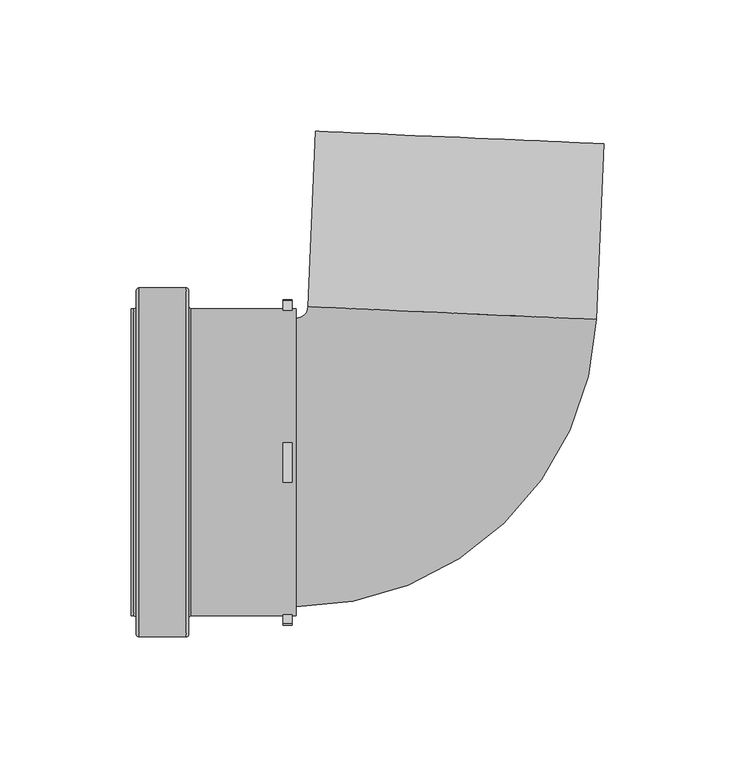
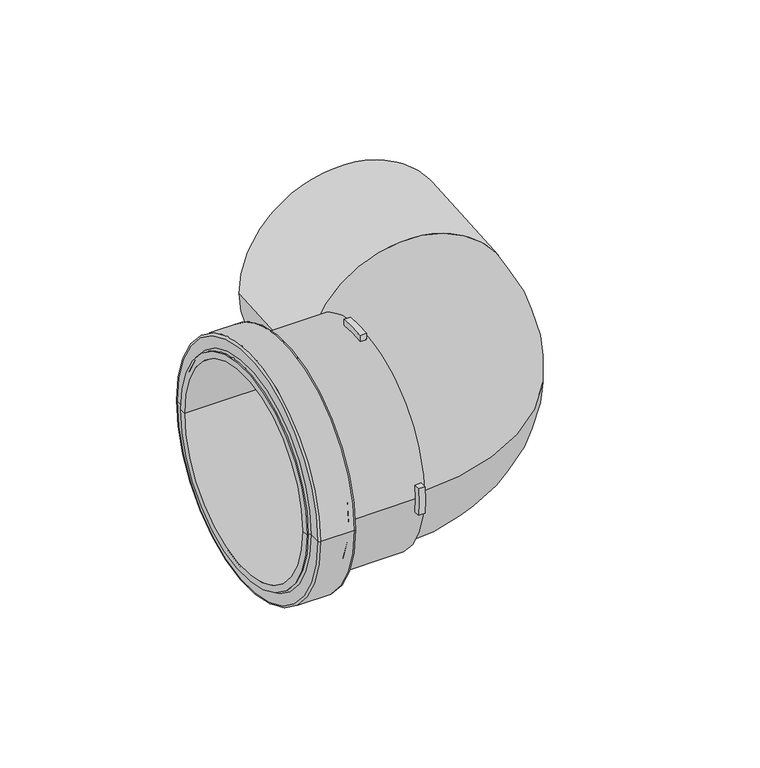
"""IFC4 building model written with IfcOpenShell, lengths in millimetres: pipe fitting geometry, MarleyPlumbingAndDrainage_PipeFitting_dBlue90DegreeBend_VKL : VKL-110-000-90D - 110mm - Blue."""

from ifc_helpers import new_model, si_unit, point, frame, origin, place, context, project, spatial, polyline, circle_curve, ellipse_curve, trimmed, source, transform, mapped, element, save
from ifc_brep_helpers import plane_surface, cylinder_surface, revolved_surface, advanced_brep


def pipe_fitting_0bd95a64(model_context):
    return source(origin(), model_context, "Body", "AdvancedBrep", [
        advanced_brep(
        [(-113.7256467, 66.5, 0.0), (-113.7256467, -66.5, 0.0), (-112.7256467, -65.5, 0.0), (-112.7256467, 65.5, 0.0), (-131.7256467, 66.5, 0.0), (-131.7256467, -66.5, 0.0), (-132.7256467, 65.5, 0.0), (-132.7256467, -65.5, 0.0), (-132.7256467, 59.5, 0.0), (-132.7256467, -59.5, 0.0), (-133.7256467, 58.5, 0.0), (-133.7256467, -58.5, 0.0), (-134.7256467, 55.0, 0.0), (-134.7256467, -55.0, 0.0), (-134.7256467, -58.5, 0.0), (-134.7256467, 58.5, 0.0), (-71.7256467, 55.0, 0.0), (-71.7256467, -55.0, 0.0), (-71.7256467, 58.5, 0.0), (-71.7256467, -58.5, 0.0), (-73.2256467, 58.5, 0.0), (-73.2256467, 58.0172388, 7.5), (-76.7256467, 58.0172388, 7.5), (-76.7256467, 58.5, 0.0), (-111.7256467, 58.5, 0.0), (-111.7256467, -58.5, 0.0), (-76.7256467, -58.5, 0.0), (-76.7256467, -58.0172388, 7.5), (-73.2256467, -58.0172388, 7.5), (-73.2256467, -58.5, 0.0), (-76.7256467, -7.5, 58.0172388), (-76.7256467, 7.5, 58.0172388), (-73.2256467, 7.5, 58.0172388), (-73.2256467, -7.5, 58.0172388), (-73.2256467, -58.0172388, -7.5), (-76.7256467, -58.0172388, -7.5), (-76.7256467, 58.0172388, -7.5), (-73.2256467, 58.0172388, -7.5), (-76.7256467, 7.5, -58.0172388), (-76.7256467, -7.5, -58.0172388), (-73.2256467, -7.5, -58.0172388), (-73.2256467, 7.5, -58.0172388), (-112.7256467, 59.5, 0.0), (-112.7256467, -59.5, 0.0), (-76.7256467, 61.5446992, 7.5), (-76.7256467, 61.5446992, -7.5), (-76.7256467, -7.5, 61.5446992), (-76.7256467, 7.5, 61.5446992), (-76.7256467, -61.5446992, -7.5), (-76.7256467, -61.5446992, 7.5), (-76.7256467, 7.5, -61.5446992), (-76.7256467, -7.5, -61.5446992), (-73.2256467, 61.5446992, -7.5), (-73.2256467, 61.5446992, 7.5), (-73.2256467, 7.5, 61.5446992), (-73.2256467, -7.5, 61.5446992), (-73.2256467, -61.5446992, 7.5), (-73.2256467, -61.5446992, -7.5), (-73.2256467, -7.5, -61.5446992), (-73.2256467, 7.5, -61.5446992)],
        [
            (0, 1, circle_curve(frame((-113.7256467, 0.0, 0.0), z_axis=(1.0, 0.0, 0.0), x_axis=(0.0, -1.0, 0.0)), 66.5)),
            (1, 2, circle_curve(frame((-113.7256467, -65.5, 0.0), z_axis=(0.0, 0.0, 1.0), x_axis=(0.0, -1.0, 0.0)), 1.0)),
            (2, 3, circle_curve(frame((-112.7256467, 0.0, 0.0), z_axis=(-1.0, 0.0, 0.0), x_axis=(0.0, -1.0, 0.0)), 65.5)),
            (3, 0, circle_curve(frame((-113.7256467, 65.5, 0.0), z_axis=(0.0, 0.0, 1.0), x_axis=(0.0, 1.0, 0.0)), 1.0)),
            (1, 0, circle_curve(frame((-113.7256467, 0.0, 0.0), z_axis=(1.0, 0.0, 0.0), x_axis=(0.0, -1.0, 0.0)), 66.5)),
            (3, 2, circle_curve(frame((-112.7256467, 0.0, 0.0), z_axis=(-1.0, 0.0, 0.0), x_axis=(0.0, -1.0, 0.0)), 65.5)),
            (0, 4),
            (4, 5, circle_curve(frame((-131.7256467, 0.0, 0.0), z_axis=(1.0, 0.0, 0.0), x_axis=(0.0, -1.0, 0.0)), 66.5)),
            (5, 1),
            (5, 4, circle_curve(frame((-131.7256467, 0.0, 0.0), z_axis=(1.0, 0.0, 0.0), x_axis=(0.0, -1.0, 0.0)), 66.5)),
            (4, 6, circle_curve(frame((-131.7256467, 65.5, 0.0), z_axis=(0.0, 0.0, 1.0), x_axis=(0.0, 1.0, 0.0)), 1.0)),
            (6, 7, circle_curve(frame((-132.7256467, 0.0, 0.0), z_axis=(1.0, 0.0, 0.0), x_axis=(0.0, -1.0, 0.0)), 65.5)),
            (7, 5, circle_curve(frame((-131.7256467, -65.5, 0.0), z_axis=(0.0, 0.0, 1.0), x_axis=(0.0, -1.0, 0.0)), 1.0)),
            (7, 6, circle_curve(frame((-132.7256467, 0.0, 0.0), z_axis=(1.0, 0.0, 0.0), x_axis=(0.0, -1.0, 0.0)), 65.5)),
            (6, 8),
            (8, 9, circle_curve(frame((-132.7256467, 0.0, 0.0), z_axis=(1.0, 0.0, 0.0), x_axis=(0.0, -1.0, 0.0)), 59.5)),
            (9, 7),
            (9, 8, circle_curve(frame((-132.7256467, 0.0, 0.0), z_axis=(1.0, 0.0, 0.0), x_axis=(0.0, -1.0, 0.0)), 59.5)),
            (8, 10, circle_curve(frame((-133.7256467, 59.5, 0.0), z_axis=(0.0, 0.0, -1.0), x_axis=(0.0, 1.0, 0.0)), 1.0)),
            (10, 11, circle_curve(frame((-133.7256467, 0.0, 0.0), z_axis=(1.0, 0.0, 0.0), x_axis=(0.0, -1.0, 0.0)), 58.5)),
            (11, 9, circle_curve(frame((-133.7256467, -59.5, 0.0), z_axis=(0.0, 0.0, -1.0), x_axis=(0.0, -1.0, 0.0)), 1.0)),
            (11, 10, circle_curve(frame((-133.7256467, 0.0, 0.0), z_axis=(1.0, 0.0, 0.0), x_axis=(0.0, -1.0, 0.0)), 58.5)),
            (12, 13, circle_curve(frame((-134.7256467, 0.0, 0.0), z_axis=(1.0, 0.0, 0.0), x_axis=(0.0, -1.0, 0.0)), 55.0)),
            (13, 14),
            (14, 15, circle_curve(frame((-134.7256467, 0.0, 0.0), z_axis=(-1.0, 0.0, 0.0), x_axis=(0.0, -1.0, 0.0)), 58.5)),
            (15, 12),
            (13, 12, circle_curve(frame((-134.7256467, 0.0, 0.0), z_axis=(1.0, 0.0, 0.0), x_axis=(0.0, -1.0, 0.0)), 55.0)),
            (15, 14, circle_curve(frame((-134.7256467, 0.0, 0.0), z_axis=(-1.0, 0.0, 0.0), x_axis=(0.0, -1.0, 0.0)), 58.5)),
            (12, 16),
            (16, 17, circle_curve(frame((-71.7256467, 0.0, 0.0), z_axis=(1.0, 0.0, 0.0), x_axis=(0.0, -1.0, 0.0)), 55.0)),
            (17, 13),
            (17, 16, circle_curve(frame((-71.7256467, 0.0, 0.0), z_axis=(1.0, 0.0, 0.0), x_axis=(0.0, -1.0, 0.0)), 55.0)),
            (16, 18),
            (18, 19, circle_curve(frame((-71.7256467, 0.0, 0.0), z_axis=(1.0, 0.0, 0.0), x_axis=(0.0, -1.0, 0.0)), 58.5)),
            (19, 17),
            (19, 18, circle_curve(frame((-71.7256467, 0.0, 0.0), z_axis=(1.0, 0.0, 0.0), x_axis=(0.0, -1.0, 0.0)), 58.5)),
            (18, 20),
            (20, 21, circle_curve(frame((-73.2256467, 0.0, 0.0), z_axis=(1.0, 0.0, 0.0), x_axis=(0.0, -1.0, 0.0)), 58.5)),
            (21, 22),
            (22, 23, circle_curve(frame((-76.7256467, 0.0, 0.0), z_axis=(-1.0, 0.0, 0.0), x_axis=(0.0, -1.0, 0.0)), 58.5)),
            (23, 24),
            (24, 25, circle_curve(frame((-111.7256467, 0.0, 0.0), z_axis=(1.0, 0.0, 0.0), x_axis=(0.0, -1.0, 0.0)), 58.5)),
            (25, 26),
            (26, 27, circle_curve(frame((-76.7256467, 0.0, 0.0), z_axis=(-1.0, 0.0, 0.0), x_axis=(0.0, -1.0, 0.0)), 58.5)),
            (27, 28),
            (28, 29, circle_curve(frame((-73.2256467, 0.0, 0.0), z_axis=(1.0, 0.0, 0.0), x_axis=(0.0, -1.0, 0.0)), 58.5)),
            (29, 19),
            (30, 31, circle_curve(frame((-76.7256467, 0.0, 0.0), z_axis=(-1.0, 0.0, 0.0), x_axis=(0.0, -1.0, 0.0)), 58.5)),
            (31, 32),
            (32, 33, circle_curve(frame((-73.2256467, 0.0, 0.0), z_axis=(1.0, 0.0, 0.0), x_axis=(0.0, -1.0, 0.0)), 58.5)),
            (33, 30),
            (29, 34, circle_curve(frame((-73.2256467, 0.0, 0.0), z_axis=(1.0, 0.0, 0.0), x_axis=(0.0, -1.0, 0.0)), 58.5)),
            (34, 35),
            (35, 26, circle_curve(frame((-76.7256467, 0.0, 0.0), z_axis=(-1.0, 0.0, 0.0), x_axis=(0.0, -1.0, 0.0)), 58.5)),
            (25, 24, circle_curve(frame((-111.7256467, 0.0, 0.0), z_axis=(1.0, 0.0, 0.0), x_axis=(0.0, -1.0, 0.0)), 58.5)),
            (23, 36, circle_curve(frame((-76.7256467, 0.0, 0.0), z_axis=(-1.0, 0.0, 0.0), x_axis=(0.0, -1.0, 0.0)), 58.5)),
            (36, 37),
            (37, 20, circle_curve(frame((-73.2256467, 0.0, 0.0), z_axis=(1.0, 0.0, 0.0), x_axis=(0.0, -1.0, 0.0)), 58.5)),
            (38, 39, circle_curve(frame((-76.7256467, 0.0, 0.0), z_axis=(-1.0, 0.0, 0.0), x_axis=(0.0, -1.0, 0.0)), 58.5)),
            (39, 40),
            (40, 41, circle_curve(frame((-73.2256467, 0.0, 0.0), z_axis=(1.0, 0.0, 0.0), x_axis=(0.0, -1.0, 0.0)), 58.5)),
            (41, 38),
            (24, 42, circle_curve(frame((-111.7256467, 59.5, 0.0), z_axis=(0.0, 0.0, -1.0), x_axis=(0.0, 1.0, 0.0)), 1.0)),
            (42, 43, circle_curve(frame((-112.7256467, 0.0, 0.0), z_axis=(1.0, 0.0, 0.0), x_axis=(0.0, -1.0, 0.0)), 59.5)),
            (43, 25, circle_curve(frame((-111.7256467, -59.5, 0.0), z_axis=(0.0, 0.0, -1.0), x_axis=(0.0, -1.0, 0.0)), 1.0)),
            (43, 42, circle_curve(frame((-112.7256467, 0.0, 0.0), z_axis=(1.0, 0.0, 0.0), x_axis=(0.0, -1.0, 0.0)), 59.5)),
            (2, 43),
            (42, 3),
            (10, 15),
            (14, 11),
            (22, 44),
            (44, 45, circle_curve(frame((-76.7256467, 0.0, 0.0), z_axis=(-1.0, 0.0, 0.0), x_axis=(0.0, -1.0, 0.0)), 62.0)),
            (45, 36),
            (30, 46),
            (46, 47, circle_curve(frame((-76.7256467, 0.0, 0.0), z_axis=(-1.0, 0.0, 0.0), x_axis=(0.0, -1.0, 0.0)), 62.0)),
            (47, 31),
            (35, 48),
            (48, 49, circle_curve(frame((-76.7256467, 0.0, 0.0), z_axis=(-1.0, 0.0, 0.0), x_axis=(0.0, -1.0, 0.0)), 62.0)),
            (49, 27),
            (38, 50),
            (50, 51, circle_curve(frame((-76.7256467, 0.0, 0.0), z_axis=(-1.0, 0.0, 0.0), x_axis=(0.0, -1.0, 0.0)), 62.0)),
            (51, 39),
            (37, 52),
            (52, 53, circle_curve(frame((-73.2256467, 0.0, 0.0), z_axis=(1.0, 0.0, 0.0), x_axis=(0.0, -1.0, 0.0)), 62.0)),
            (53, 21),
            (32, 54),
            (54, 55, circle_curve(frame((-73.2256467, 0.0, 0.0), z_axis=(1.0, 0.0, 0.0), x_axis=(0.0, -1.0, 0.0)), 62.0)),
            (55, 33),
            (28, 56),
            (56, 57, circle_curve(frame((-73.2256467, 0.0, 0.0), z_axis=(1.0, 0.0, 0.0), x_axis=(0.0, -1.0, 0.0)), 62.0)),
            (57, 34),
            (40, 58),
            (58, 59, circle_curve(frame((-73.2256467, 0.0, 0.0), z_axis=(1.0, 0.0, 0.0), x_axis=(0.0, -1.0, 0.0)), 62.0)),
            (59, 41),
            (53, 44),
            (52, 45),
            (55, 46),
            (54, 47),
            (57, 48),
            (56, 49),
            (59, 50),
            (58, 51),
        ],
        [
            revolved_surface(trimmed(ellipse_curve(frame((-113.7256467, -65.5, 0.0), z_axis=(0.0, 0.0, -1.0), x_axis=(0.0, -1.0, 0.0)), 1.0, 1.0), [point((-112.7256467, -65.5, 0.0))], [point((-113.7256467, -66.5, 0.0))], True, "CARTESIAN"), (-189.7256467, 0.0, 0.0), (-1.0, 0.0, 0.0)),
            cylinder_surface(frame((-189.7256467, 0.0, 0.0), z_axis=(-1.0, 0.0, 0.0), x_axis=(0.0, -1.0, 0.0)), 66.5),
            revolved_surface(trimmed(ellipse_curve(frame((-131.7256467, -65.5, 0.0), z_axis=(0.0, 0.0, -1.0), x_axis=(0.0, -1.0, 0.0)), 1.0, 1.0), [point((-131.7256467, -66.5, 0.0))], [point((-132.7256467, -65.5, 0.0))], True, "CARTESIAN"), (-189.7256467, 0.0, 0.0), (-1.0, 0.0, 0.0)),
            plane_surface(frame((-132.7256467, 0.0, 0.0), z_axis=(-1.0, 0.0, 0.0), x_axis=(0.0, -1.0, 0.0))),
            revolved_surface(trimmed(ellipse_curve(frame((-133.7256467, -59.5, 0.0), z_axis=(0.0, 0.0, 1.0), x_axis=(0.0, -1.0, 0.0)), 1.0, 1.0), [point((-132.7256467, -59.5, 0.0))], [point((-133.7256467, -58.5, 0.0))], True, "CARTESIAN"), (-189.7256467, 0.0, 0.0), (-1.0, 0.0, 0.0)),
            plane_surface(frame((-134.7256467, 0.0, 0.0), z_axis=(-1.0, 0.0, 0.0), x_axis=(0.0, -1.0, 0.0))),
            revolved_surface(polyline([(-134.7256467, -55.0, 0.0), (-71.7256467, -55.0, 0.0)]), (-189.7256467, 0.0, 0.0), (-1.0, 0.0, 0.0)),
            plane_surface(frame((-71.7256467, 0.0, 0.0), z_axis=(1.0, 0.0, 0.0), x_axis=(0.0, -1.0, 0.0))),
            cylinder_surface(frame((-189.7256467, 0.0, 0.0), z_axis=(-1.0, 0.0, 0.0), x_axis=(0.0, -1.0, 0.0)), 58.5),
            revolved_surface(trimmed(ellipse_curve(frame((-111.7256467, -59.5, 0.0), z_axis=(0.0, 0.0, 1.0), x_axis=(0.0, -1.0, 0.0)), 1.0, 1.0), [point((-111.7256467, -58.5, 0.0))], [point((-112.7256467, -59.5, 0.0))], True, "CARTESIAN"), (-189.7256467, 0.0, 0.0), (-1.0, 0.0, 0.0)),
            plane_surface(frame((-112.7256467, 0.0, 0.0), z_axis=(1.0, 0.0, 0.0), x_axis=(0.0, -1.0, 0.0))),
            plane_surface(frame((-76.7256467, -58.5, 0.0), z_axis=(-1.0, 0.0, 0.0), x_axis=(0.0, 0.0, -1.0))),
            plane_surface(frame((-73.2256467, -58.5, 0.0), z_axis=(1.0, 0.0, 0.0), x_axis=(0.0, 0.0, 1.0))),
            plane_surface(frame((-76.7256467, 58.0172388, 7.5), z_axis=(0.0, 0.0, 1.0), x_axis=(1.0, 0.0, 0.0))),
            cylinder_surface(frame((-73.2256467, 0.0, 0.0), z_axis=(-1.0, 0.0, 0.0), x_axis=(0.0, -1.0, 0.0)), 62.0),
            plane_surface(frame((-76.7256467, 61.5446992, -7.5), z_axis=(0.0, 0.0, -1.0), x_axis=(1.0, 0.0, 0.0))),
            plane_surface(frame((-76.7256467, -7.5, 58.0172388), z_axis=(0.0, -1.0, 0.0), x_axis=(1.0, 0.0, 0.0))),
            cylinder_surface(frame((-71.7256467, 0.0, 0.0), z_axis=(-1.0, 0.0, 0.0), x_axis=(0.0, -1.0, 0.0)), 62.0),
            plane_surface(frame((-76.7256467, 7.5, 61.5446992), z_axis=(0.0, 1.0, 0.0), x_axis=(1.0, 0.0, 0.0))),
            plane_surface(frame((-76.7256467, -58.0172388, -7.5), z_axis=(0.0, 0.0, -1.0), x_axis=(1.0, 0.0, 0.0))),
            plane_surface(frame((-76.7256467, -61.5446992, 7.5), z_axis=(0.0, 0.0, 1.0), x_axis=(1.0, 0.0, 0.0))),
            plane_surface(frame((-76.7256467, 7.5, -58.0172388), z_axis=(0.0, 1.0, 0.0), x_axis=(1.0, 0.0, 0.0))),
            plane_surface(frame((-76.7256467, -7.5, -61.5446992), z_axis=(0.0, -1.0, 0.0), x_axis=(1.0, 0.0, 0.0))),
        ],
        [
            (0, [[1, 2, 3, 4]]),
            (0, [[-2, 5, -4, 6]]),
            (1, [[-1, 7, 8, 9]]),
            (1, [[-5, -9, 10, -7]]),
            (2, [[-8, 11, 12, 13]]),
            (2, [[-10, -13, 14, -11]]),
            (3, [[-12, 15, 16, 17]]),
            (3, [[-14, -17, 18, -15]]),
            (4, [[-16, 19, 20, 21]]),
            (4, [[-18, -21, 22, -19]]),
            (5, [[23, 24, 25, 26]]),
            (5, [[-24, 27, -26, 28]]),
            (6, [[-23, 29, 30, 31]]),
            (6, [[-27, -31, 32, -29]]),
            (7, [[-30, 33, 34, 35]]),
            (7, [[-32, -35, 36, -33]]),
            (8, [[-34, 37, 38, 39, 40, 41, 42, 43, 44, 45, 46, 47], [48, 49, 50, 51]]),
            (8, [[-36, -47, 52, 53, 54, -43, 55, -41, 56, 57, 58, -37], [59, 60, 61, 62]]),
            (9, [[-42, 63, 64, 65]]),
            (9, [[-55, -65, 66, -63]]),
            (10, [[-3, 67, -64, 68]]),
            (10, [[-6, -68, -66, -67]]),
            (8, [[-20, 69, -25, 70]]),
            (8, [[-22, -70, -28, -69]]),
            (11, [[71, 72, 73, -56, -40]]),
            (11, [[74, 75, 76, -48]]),
            (11, [[77, 78, 79, -44, -54]]),
            (11, [[80, 81, 82, -59]]),
            (12, [[83, 84, 85, -38, -58]]),
            (12, [[86, 87, 88, -50]]),
            (12, [[89, 90, 91, -52, -46]]),
            (12, [[92, 93, 94, -61]]),
            (13, [[-71, -39, -85, 95]]),
            (14, [[-72, -95, -84, 96]]),
            (15, [[-73, -96, -83, -57]]),
            (16, [[-74, -51, -88, 97]]),
            (17, [[-75, -97, -87, 98]]),
            (18, [[-76, -98, -86, -49]]),
            (19, [[-77, -53, -91, 99]]),
            (17, [[-78, -99, -90, 100]]),
            (20, [[-79, -100, -89, -45]]),
            (21, [[-80, -62, -94, 101]]),
            (17, [[-81, -101, -93, 102]]),
            (22, [[-82, -102, -92, -60]]),
        ],
    ),
        advanced_brep(
        [(-71.7256467, -55.0, 0.0), (-71.7256467, 55.0, 0.0), (-67.2299297, 59.3037128, 0.0), (42.6653746, 54.5055801, 0.0), (45.5878736, 121.441811, 0.0), (-64.3074308, 126.2399436, 0.0)],
        [
            (0, 1, circle_curve(frame((-71.7256467, 0.0, 0.0), z_axis=(-1.0, 0.0, 0.0), x_axis=(0.0, 1.0, 0.0)), 55.0)),
            (1, 0, circle_curve(frame((-71.7256467, 0.0, 0.0), z_axis=(-1.0, 0.0, 0.0), x_axis=(0.0, 1.0, 0.0)), 55.0)),
            (2, 1, circle_curve(frame((-71.7256467, 59.5, 0.0), z_axis=(0.0, 0.0, -1.0), x_axis=(0.0, -1.0, 0.0)), 4.5)),
            (0, 3, circle_curve(frame((-71.7256467, 59.5, 0.0), z_axis=(0.0, 0.0, 1.0), x_axis=(0.0, -1.0, 0.0)), 114.5)),
            (3, 2, circle_curve(frame((-12.2822776, 56.9046465, 0.0), z_axis=(-0.0436193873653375, -0.9990482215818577, 0.0), x_axis=(-0.9990482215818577, 0.0436193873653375, 0.0)), 55.0)),
            (2, 3, circle_curve(frame((-12.2822776, 56.9046465, 0.0), z_axis=(-0.04361938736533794, -0.9990482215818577, 0.0), x_axis=(-0.9990482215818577, 0.04361938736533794, 0.0)), 55.0)),
            (4, 5, circle_curve(frame((-9.3597786, 123.8408773, 0.0), z_axis=(0.0436193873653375, 0.9990482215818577, 0.0), x_axis=(-0.9990482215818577, 0.0436193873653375, 0.0)), 55.0)),
            (5, 4, circle_curve(frame((-9.3597786, 123.8408773, 0.0), z_axis=(0.0436193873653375, 0.9990482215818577, 0.0), x_axis=(-0.9990482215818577, 0.0436193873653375, 0.0)), 55.0)),
            (3, 4),
            (5, 2),
        ],
        [
            plane_surface(frame((-71.7256467, 0.0, 0.0), z_axis=(-1.0, 0.0, 0.0), x_axis=(0.0, 0.0, 1.0))),
            revolved_surface(trimmed(ellipse_curve(frame((-71.7256467, 0.0, 0.0), z_axis=(-1.0, 0.0, 0.0), x_axis=(0.0, 1.0, 0.0)), 55.0, 55.0), [point((-71.7256467, -55.0, 0.0))], [point((-71.7256467, 55.0, 0.0))], True, "CARTESIAN"), (-71.7256467, 59.5, 0.0), (0.0, 0.0, 1.0)),
            revolved_surface(trimmed(ellipse_curve(frame((-71.7256467, 0.0, 0.0), z_axis=(-1.0, 0.0, 0.0), x_axis=(0.0, 1.0, 0.0)), 55.0, 55.0), [point((-71.7256467, 55.0, 0.0))], [point((-71.7256467, -55.0, 0.0))], True, "CARTESIAN"), (-71.7256467, 59.5, 0.0), (0.0, 0.0, 1.0)),
            plane_surface(frame((-9.3597786, 123.8408773, 0.0), z_axis=(0.0436193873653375, 0.9990482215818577, 0.0), x_axis=(0.0, 0.0, 1.0))),
            cylinder_surface(frame((-12.2822776, 56.9046465, 0.0), z_axis=(-0.0436193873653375, -0.9990482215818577, 0.0), x_axis=(-0.9990482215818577, 0.0436193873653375, 0.0)), 55.0),
        ],
        [
            (0, [[1, 2]]),
            (1, [[3, -1, 4, 5]]),
            (2, [[-4, -2, -3, 6]]),
            (3, [[7, 8]]),
            (4, [[-5, 9, -8, 10]]),
            (4, [[-6, -10, -7, -9]]),
        ],
    ),
    ])


if __name__ == "__main__":
    model = new_model("IFC4")
    model_context = context("Model", 3, world=origin())
    ifc_project = project(units=[si_unit("LENGTHUNIT", "METRE", prefix="MILLI")], contexts=[model_context])
    site = spatial("IfcSite", under=ifc_project)
    building = spatial("IfcBuilding", under=site)
    placement = place(None, origin())
    pipe_fitting_shape = pipe_fitting_0bd95a64(model_context)
    element("IfcPipeFitting", 1, ObjectType="MarleyPlumbingAndDrainage_PipeFitting_dBlue90DegreeBend_VKL : VKL-110-000-90D - 110mm - Blue", at=placement, inside=building, context=model_context, shape_type="MappedRepresentation", body=[
        mapped(pipe_fitting_shape, transform((0.0, 0.0, 0.0), x_axis=(1.0, 0.0, 0.0), y_axis=(0.0, 1.0, 0.0), z_axis=(0.0, 0.0, 1.0))),
    ])
    save(model, "model.ifc")
